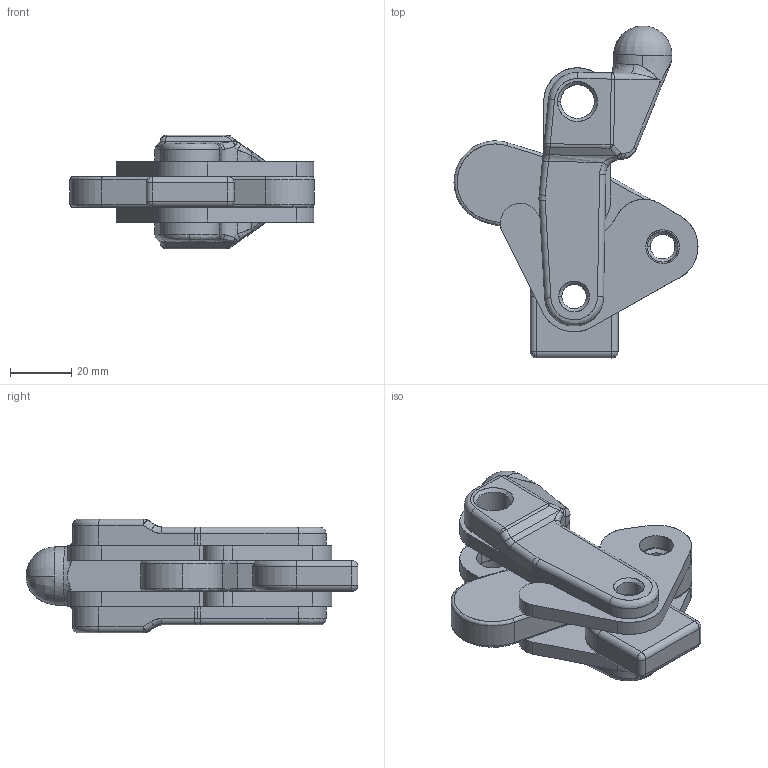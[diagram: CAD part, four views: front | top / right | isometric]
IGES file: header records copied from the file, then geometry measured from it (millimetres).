
Start section: SolidWorks IGES file using analytic representation for surfaces
Global section: file name: D:\GH Files\GH-SW-FILES\GH7\70305,310,315\GH-70310.IGS; native system: SolidWorks 2006 by SolidWorks Corporation; preprocessor: SolidWorks 2006 by SolidWorks Corporation; author: Administrator; date: 060705.130317; units: millimetre
Bounding box: 79.47 x 108.12 x 37 mm (x, y, z)
Surface area: 34804 mm2 (no closed solid volume)
Topology: 0 solids, 0 shells, 259 faces, 2969 edges, 2963 vertices
Faces by surface type: revolution 147, bspline 112
